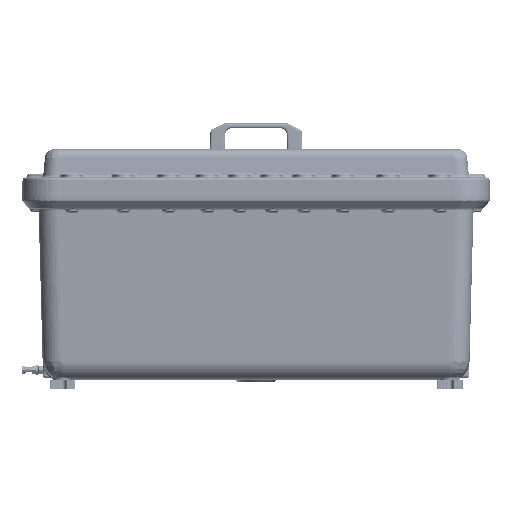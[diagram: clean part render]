
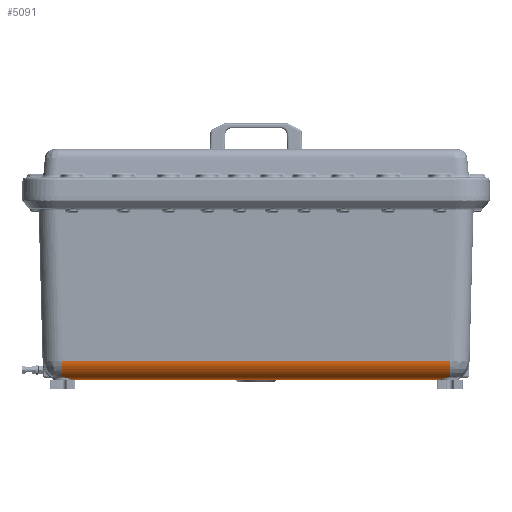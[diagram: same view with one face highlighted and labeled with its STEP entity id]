
A CAD part, front view. The second image highlights one B-rep face of the part: STEP entity #5091.
In plain terms, the highlighted cylindrical face has radius 30 mm (diameter 60 mm), a partial arc.
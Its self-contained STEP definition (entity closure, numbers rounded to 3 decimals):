
#5091=ADVANCED_FACE('',(#37187),#37189,.T.);
#37187=FACE_BOUND('',#37188,.T.);
#37188=EDGE_LOOP('',(#101228,#101229,#101230,#101231,#101232,#101233));
#37189=CYLINDRICAL_SURFACE('',#37190,30.);
#37190=AXIS2_PLACEMENT_3D('',#37191,#37192,#37193);
#37191=CARTESIAN_POINT('',(-420.071,-253.,-201.836));
#37192=DIRECTION('',(1.,0.,0.));
#37193=DIRECTION('',(0.,-1.,0.));
#101228=ORIENTED_EDGE('',*,*,#118093,.F.);
#101229=ORIENTED_EDGE('',*,*,#117872,.F.);
#101230=ORIENTED_EDGE('',*,*,#118094,.F.);
#101231=ORIENTED_EDGE('',*,*,#118095,.F.);
#101232=ORIENTED_EDGE('',*,*,#118096,.T.);
#101233=ORIENTED_EDGE('',*,*,#118097,.T.);
#117872=EDGE_CURVE('',#126278,#126280,#126281,.T.);
#118093=EDGE_CURVE('',#126280,#126696,#126697,.T.);
#118094=EDGE_CURVE('',#126698,#126278,#126699,.T.);
#118095=EDGE_CURVE('',#126700,#126698,#126701,.F.);
#118096=EDGE_CURVE('',#126700,#126702,#126703,.T.);
#118097=EDGE_CURVE('',#126702,#126696,#126704,.T.);
#126278=VERTEX_POINT('',#140478);
#126280=VERTEX_POINT('',#140483);
#126281=LINE('',#140484,#140485);
#126696=VERTEX_POINT('',#143839);
#126697=B_SPLINE_CURVE_WITH_KNOTS('',3,
(#143840,#143841,#143842,#143843,#143844,#143845,#143846,#143847,#143848,#143849,
#143850,#143851,#143852,#143853,#143854,#143855,#143856,#143857,#143858,#143859,
#143860,#143861,#143862),
.UNSPECIFIED.,.F.,.F.,
(4,1,1,1,1,1,1,1,1,1,1,1,1,1,1,1,1,1,1,1,4),
(0.,0.078,0.146,0.205,0.269,0.342,
0.427,0.513,0.592,0.66,0.72,
0.777,0.823,0.864,0.896,0.923,
0.944,0.96,0.977,0.99,1.),
.UNSPECIFIED.);
#126698=VERTEX_POINT('',#143863);
#126699=B_SPLINE_CURVE_WITH_KNOTS('',3,
(#143864,#143865,#143866,#143867,#143868,#143869,#143870,#143871,#143872,#143873,
#143874,#143875,#143876,#143877,#143878,#143879,#143880,#143881,#143882,#143883,
#143884),
.UNSPECIFIED.,.F.,.F.,
(4,1,1,1,1,1,1,1,1,1,1,1,1,1,1,1,1,1,4),
(0.,0.036,0.069,0.099,0.131,0.173,
0.224,0.281,0.346,0.418,0.5,
0.585,0.67,0.744,0.811,0.871,
0.931,0.974,1.),
.UNSPECIFIED.);
#126700=VERTEX_POINT('',#143885);
#126701=CIRCLE('',#143886,30.);
#126702=VERTEX_POINT('',#143890);
#126703=LINE('',#143891,#143892);
#126704=CIRCLE('',#143894,30.);
#140478=CARTESIAN_POINT('',(-284.513,-283.,-201.836));
#140483=CARTESIAN_POINT('',(284.513,-283.,-201.836));
#140484=CARTESIAN_POINT('',(-284.513,-283.,-201.836));
#140485=VECTOR('',#140486,1.);
#140486=DIRECTION('',(1.,0.,0.));
#143839=CARTESIAN_POINT('',(300.836,-279.46,-215.973));
#143840=CARTESIAN_POINT('',(284.513,-283.,-201.836));
#143841=CARTESIAN_POINT('',(284.587,-283.008,-202.456));
#143842=CARTESIAN_POINT('',(284.792,-282.979,-203.607));
#143843=CARTESIAN_POINT('',(285.249,-282.837,-205.181));
#143844=CARTESIAN_POINT('',(285.806,-282.635,-206.598));
#143845=CARTESIAN_POINT('',(286.503,-282.371,-207.989));
#143846=CARTESIAN_POINT('',(287.438,-282.018,-209.467));
#143847=CARTESIAN_POINT('',(288.637,-281.584,-210.953));
#143848=CARTESIAN_POINT('',(290.042,-281.117,-212.312));
#143849=CARTESIAN_POINT('',(291.5,-280.686,-213.414));
#143850=CARTESIAN_POINT('',(292.902,-280.325,-214.249));
#143851=CARTESIAN_POINT('',(294.222,-280.035,-214.867));
#143852=CARTESIAN_POINT('',(295.44,-279.814,-215.306));
#143853=CARTESIAN_POINT('',(296.547,-279.656,-215.606));
#143854=CARTESIAN_POINT('',(297.487,-279.555,-215.792));
#143855=CARTESIAN_POINT('',(298.28,-279.494,-215.901));
#143856=CARTESIAN_POINT('',(298.919,-279.463,-215.96));
#143857=CARTESIAN_POINT('',(299.438,-279.45,-215.987));
#143858=CARTESIAN_POINT('',(299.874,-279.446,-215.998));
#143859=CARTESIAN_POINT('',(300.246,-279.45,-215.997));
#143860=CARTESIAN_POINT('',(300.566,-279.455,-215.988));
#143861=CARTESIAN_POINT('',(300.753,-279.459,-215.978));
#143862=CARTESIAN_POINT('',(300.836,-279.46,-215.973));
#143863=CARTESIAN_POINT('',(-300.836,-279.46,-215.973));
#143864=CARTESIAN_POINT('',(-300.836,-279.46,-215.973));
#143865=CARTESIAN_POINT('',(-300.542,-279.457,-215.991));
#143866=CARTESIAN_POINT('',(-299.986,-279.442,-216.005));
#143867=CARTESIAN_POINT('',(-299.186,-279.453,-215.979));
#143868=CARTESIAN_POINT('',(-298.427,-279.487,-215.919));
#143869=CARTESIAN_POINT('',(-297.594,-279.548,-215.812));
#143870=CARTESIAN_POINT('',(-296.613,-279.651,-215.626));
#143871=CARTESIAN_POINT('',(-295.452,-279.814,-215.314));
#143872=CARTESIAN_POINT('',(-294.162,-280.046,-214.844));
#143873=CARTESIAN_POINT('',(-292.777,-280.351,-214.183));
#143874=CARTESIAN_POINT('',(-291.312,-280.733,-213.287));
#143875=CARTESIAN_POINT('',(-289.834,-281.179,-212.13));
#143876=CARTESIAN_POINT('',(-288.442,-281.65,-210.735));
#143877=CARTESIAN_POINT('',(-287.265,-282.082,-209.222));
#143878=CARTESIAN_POINT('',(-286.341,-282.434,-207.701));
#143879=CARTESIAN_POINT('',(-285.659,-282.693,-206.262));
#143880=CARTESIAN_POINT('',(-285.147,-282.874,-204.863));
#143881=CARTESIAN_POINT('',(-284.808,-282.973,-203.608));
#143882=CARTESIAN_POINT('',(-284.614,-283.004,-202.591));
#143883=CARTESIAN_POINT('',(-284.538,-283.003,-202.045));
#143884=CARTESIAN_POINT('',(-284.513,-283.,-201.836));
#143885=CARTESIAN_POINT('',(-300.836,-253.785,-231.826));
#143886=AXIS2_PLACEMENT_3D('',#143887,#143888,#143889);
#143887=CARTESIAN_POINT('',(-300.836,-253.,-201.836));
#143888=DIRECTION('',(1.,0.,0.));
#143889=DIRECTION('',(0.,-0.882,-0.471));
#143890=CARTESIAN_POINT('',(300.836,-253.785,-231.826));
#143891=CARTESIAN_POINT('',(-300.836,-253.785,-231.826));
#143892=VECTOR('',#143893,1.);
#143893=DIRECTION('',(1.,0.,0.));
#143894=AXIS2_PLACEMENT_3D('',#143895,#143896,#143897);
#143895=CARTESIAN_POINT('',(300.836,-253.,-201.836));
#143896=DIRECTION('',(-1.,-0.,0.));
#143897=DIRECTION('',(0.,-0.026,-1.));
